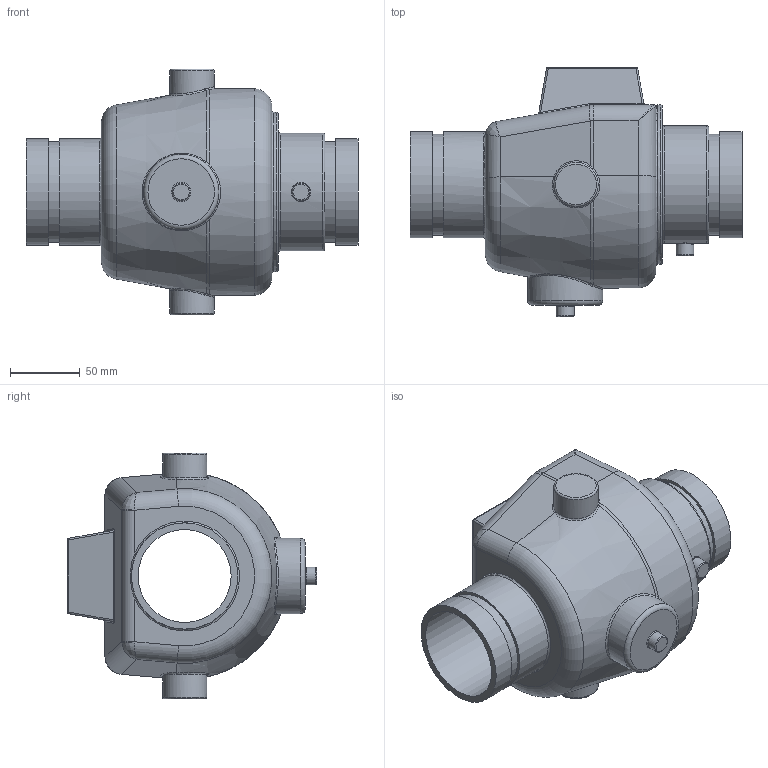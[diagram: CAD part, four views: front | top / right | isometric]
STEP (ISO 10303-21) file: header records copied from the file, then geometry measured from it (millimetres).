
FILE_DESCRIPTION(/* description */ ('VIC FIRELOCK CHECK VALVE SERIES 717-H','CAx-IF Rec.Pracs.---Representation and Presentation of Product Manufacturing Information (PMI)---4.0---2014-10-13'),/* implementation_level */ '2;1');
FILE_NAME(/* name */ 'C:\Users\Vjadhav\AppData\Roaming\Autodesk\ApplicationPlugins\Back Up\Victaulic_FP-FireLock_Valve Check_Series 717H (OGS)\Victaulic_FP-FireLock_Valve Check_Series 717H (OGS)_02.5 (76.1) (65).stp',/* time_stamp */ '2020-07-20T15:23:10+06:00',/* author */ ('cps_temp'),/* organization */ ('Victaulic'),/* preprocessor_version */ 'ST-DEVELOPER v17.2',/* originating_system */ 'Autodesk Inventor 2019',/* authorisation */ '');
FILE_SCHEMA (('AP242_MANAGED_MODEL_BASED_3D_ENGINEERING_MIM_LF { 1 0 10303 442 1 1 4 }'));
Length unit declared in the file: inch
Products named in the file (1): 717H-02.5 (76.1)
Bounding box: 238 x 178.69 x 176.28 mm (x, y, z)
Volume: 1738991 mm3; surface area: 165254.2 mm2
Topology: 1 solids, 1 shells, 131 faces, 324 edges, 197 vertices
Faces by surface type: cylinder 43, bspline 40, plane 25, torus 15, sphere 6, cone 2
Full cylindrical faces by diameter (mm): 12.7 x2, 31.75 x2, 53.975 x1, 66.65 x1, 72.263 x2, 76.2 x3, 84.328 x1, 114.3 x1
Entity records: 6013 total; most frequent: CARTESIAN_POINT 2720, DIRECTION 675, ORIENTED_EDGE 642, EDGE_CURVE 321, AXIS2_PLACEMENT_3D 297, VERTEX_POINT 198, CIRCLE 156, EDGE_LOOP 139
